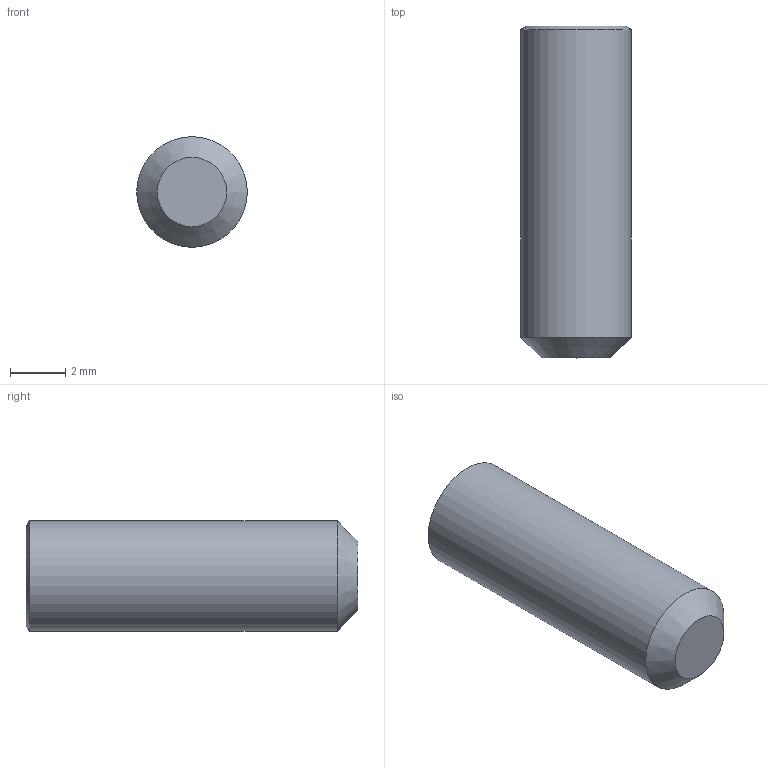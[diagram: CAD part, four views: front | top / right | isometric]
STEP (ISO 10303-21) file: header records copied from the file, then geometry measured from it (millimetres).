
FILE_DESCRIPTION(/* description */ (''),/* implementation_level */ '2;1');
FILE_NAME(/* name */ 'C:\Users\D\Documents\Inventor\各種小物\JIS\止めねじ\平先\M4\M4x12.stp',/* time_stamp */ '2022-06-23T14:24:12+09:00',/* author */ ('D'),/* organization */ (''),/* preprocessor_version */ 'ST-DEVELOPER v18',/* originating_system */ 'Autodesk Inventor 2020',/* authorisation */ '');
FILE_SCHEMA (('AUTOMOTIVE_DESIGN { 1 0 10303 214 3 1 1 }'));
Length unit declared in the file: millimetre
Products named in the file (1): M1.6x2
Bounding box: 4 x 12 x 4 mm (x, y, z)
Volume: 138 mm3; surface area: 186.8 mm2
Topology: 1 solids, 1 shells, 12 faces, 28 edges, 18 vertices
Faces by surface type: plane 8, cone 3, cylinder 1
Full cylindrical faces by diameter (mm): 4 x1
Entity records: 369 total; most frequent: CARTESIAN_POINT 72, ORIENTED_EDGE 54, DIRECTION 50, EDGE_CURVE 27, VERTEX_POINT 18, AXIS2_PLACEMENT_3D 17, LINE 16, VECTOR 16
